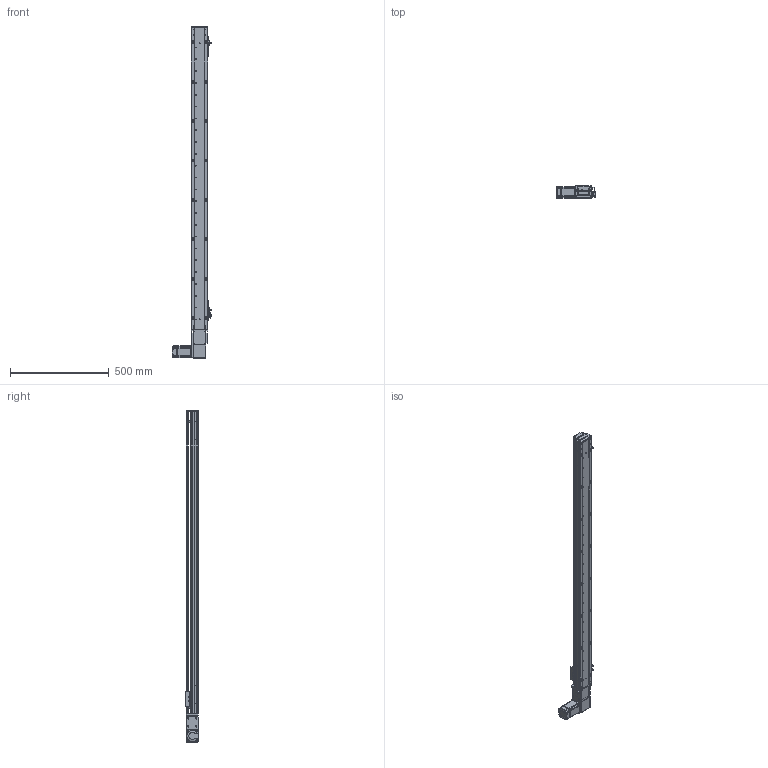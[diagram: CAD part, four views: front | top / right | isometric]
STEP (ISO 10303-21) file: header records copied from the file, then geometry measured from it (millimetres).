
FILE_DESCRIPTION (( 'STEP AP203' ), '1' );
FILE_NAME ('RY80-T-300-LK.SLDASM_1350.step', '2021-03-01T01:59:26', ( '盈信电脑' ), ( '东莞市道滘镇水果街19号' ), 'SwSTEP 2.0', 'SolidWorks 2012', '' );
FILE_SCHEMA (( 'CONFIG_CONTROL_DESIGN' ));
Length unit declared in the file: millimetre
Products named in the file (19): RY80-T-M4蹟翐; RY80-T-300-LK.SLDASM_1350; 1; RY80-T肮祭謫俋欶; RY80-T萇儂假蚾啣; 侂狟200W萇儂; 滅袉蝶18-10; RY80-T粣創揤踡輸; RY80-T翋肮祭謫裔啣; RY80-T肮祭湍揤輸2; RY80-T肮祭湍揤輸1; RY80-T-翋肮祭謫釱; RY80俋离覜茼え; 覜茼ん672; RY80-T綴裔啣; RY80-T-300-LK倰第奻裔啣_1350; 672嫖萇羲壽假蚾釱; RY80-T肮祭謫臏賑輸; RY80-T-300-LK倰第菁釱_1350
Assembly tree (24 placements, depth 3):
  RY80-T-300-LK.SLDASM_1350
    RY80-T-300-LK倰第菁釱_1350
    RY80-T肮祭謫臏賑輸
    RY80-T-300-LK倰第奻裔啣_1350
    RY80-T綴裔啣
    672嫖萇羲壽假蚾釱  x2
    覜茼ん672  x3
    RY80俋离覜茼え
    RY80-T-翋肮祭謫釱
    RY80-T肮祭湍揤輸1
    RY80-T肮祭湍揤輸2
    RY80-T粣創揤踡輸
    RY80-T翋肮祭謫裔啣  x2
    滅袉蝶18-10  x2
    侂狟200W萇儂
      1
    RY80-T肮祭謫俋欶
    RY80-T萇儂假蚾啣
    RY80-T-M4蹟翐  x2
Bounding box: 198.7 x 65 x 1685 mm (x, y, z)
Volume: 2633087.1 mm3; surface area: 1111365.9 mm2
Topology: 23 solids, 23 shells, 2506 faces, 6930 edges, 4503 vertices
Faces by surface type: plane 1325, cylinder 975, cone 150, bspline 56
Entity records: 79285 total; most frequent: CARTESIAN_POINT 19495, ORIENTED_EDGE 12304, DIRECTION 11528, EDGE_CURVE 6152, VERTEX_POINT 4044, AXIS2_PLACEMENT_3D 3893, VECTOR 3742, LINE 3742
